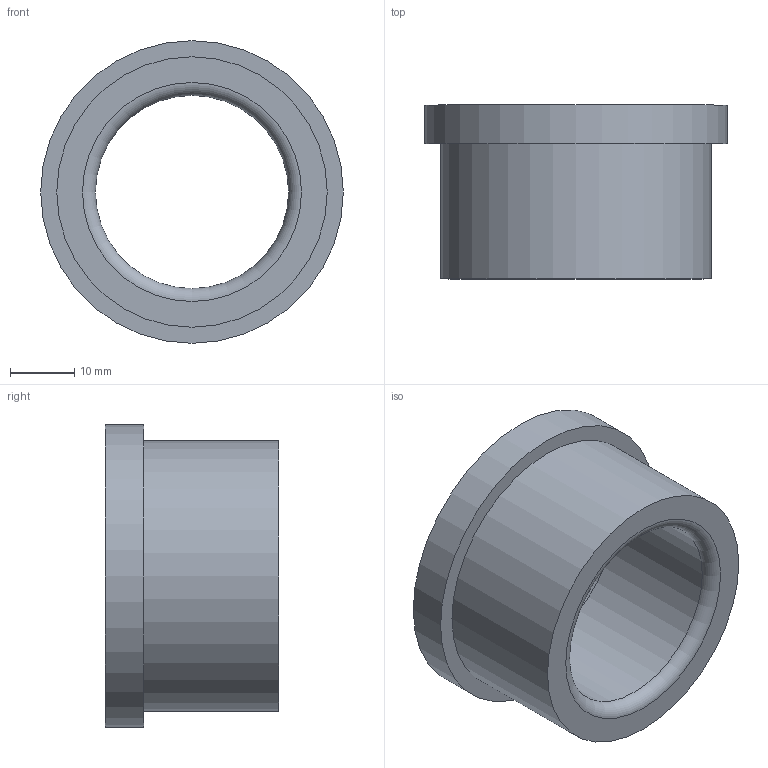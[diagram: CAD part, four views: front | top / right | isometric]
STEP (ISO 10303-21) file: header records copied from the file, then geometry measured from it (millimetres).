
FILE_DESCRIPTION(/* description */ ('STEP AP214'),/* implementation_level */ '2;1');
FILE_NAME(/* name */ '03_12_17939',/* time_stamp */ '2023-06-15T11:35:37+02:00',/* author */ ('License CC BY-ND 4.0'),/* organization */ ('CADENAS'),/* preprocessor_version */ 'ST-DEVELOPER v19.3',/* originating_system */ 'PARTsolutions',/* authorisation */ ' ');
FILE_SCHEMA (('AUTOMOTIVE_DESIGN {1 0 10303 214 3 1 1}'));
Length unit declared in the file: millimetre
Products named in the file (1): VA_Bushing_17939
Bounding box: 47 x 27 x 47 mm (x, y, z)
Volume: 20096.3 mm3; surface area: 8108 mm2
Topology: 1 solids, 1 shells, 10 faces, 16 edges, 10 vertices
Faces by surface type: cylinder 4, plane 4, torus 2
Full cylindrical faces by diameter (mm): 30 x1, 30.6 x1, 42 x1, 47 x1
Entity records: 302 total; most frequent: DIRECTION 42, CARTESIAN_POINT 31, AXIS2_PLACEMENT_3D 21, ORIENTED_EDGE 20, EDGE_LOOP 20, FACE_BOUND 20, EDGE_CURVE 10, VERTEX_POINT 10
